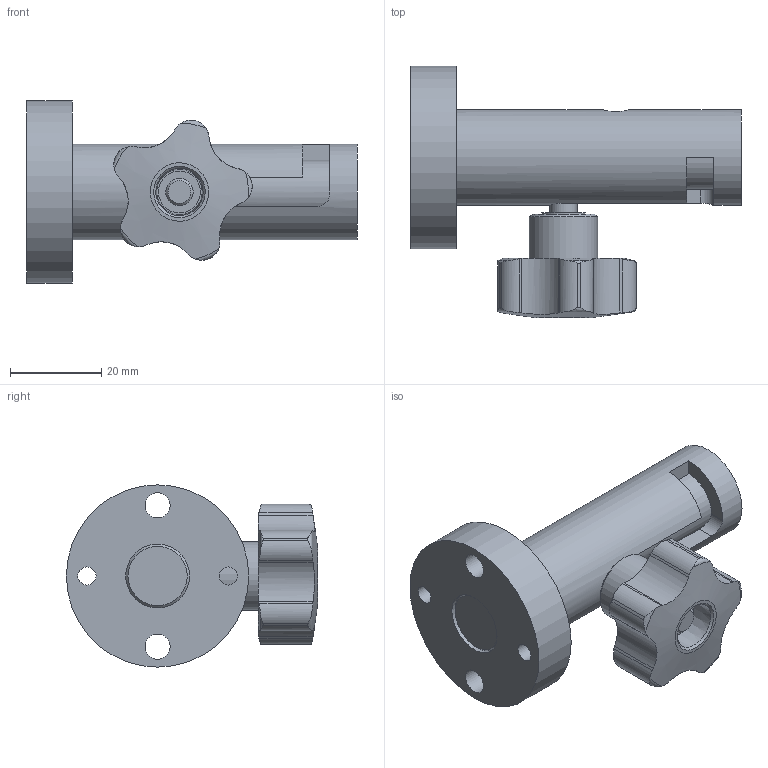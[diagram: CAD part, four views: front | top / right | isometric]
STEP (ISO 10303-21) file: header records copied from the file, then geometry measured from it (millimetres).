
FILE_DESCRIPTION(/* description */ (''),/* implementation_level */ '2;1');
FILE_NAME(/* name */ 'C:\Local Work Area\Progetti\AP\CALIBRI\24.00 Supporto svincolabile\24.00-DX.stp',/* time_stamp */ '2020-11-11T13:55:43+01:00',/* author */ ('CAD5'),/* organization */ (''),/* preprocessor_version */ 'ST-DEVELOPER v17.2',/* originating_system */ 'Autodesk Inventor 2019',/* authorisation */ '47879,6 mm^3');
FILE_SCHEMA (('AUTOMOTIVE_DESIGN { 1 0 10303 214 3 1 1 }'));
Length unit declared in the file: millimetre
Products named in the file (7): 24.00-DX; 24.01; 24.02; 24.03; UNI 5927 - M5 x 12; 12010100; BS 4463 - M5
Assembly tree (6 placements, depth 2):
  24.00-DX
    24.01
    24.02
    24.03
    UNI 5927 - M5 x 12
    12010100
    BS 4463 - M5
Bounding box: 72.5 x 55.1 x 40 mm (x, y, z)
Volume: 38562.9 mm3; surface area: 20497.2 mm2
Topology: 6 solids, 6 shells, 141 faces, 402 edges, 274 vertices
Faces by surface type: cylinder 56, plane 54, cone 21, torus 10
Full cylindrical faces by diameter (mm): 4 x3, 4.917 x2, 5 x1, 5.3 x1, 5.5 x2, 6 x4, 6.647 x1, 9.2 x1, 9.6 x1, 14 x3, 15 x1, 15.9 x1, 21 x1, 40 x1
Entity records: 5516 total; most frequent: CARTESIAN_POINT 1577, ORIENTED_EDGE 800, DIRECTION 766, EDGE_CURVE 400, AXIS2_PLACEMENT_3D 306, VERTEX_POINT 274, EDGE_LOOP 166, LINE 154
